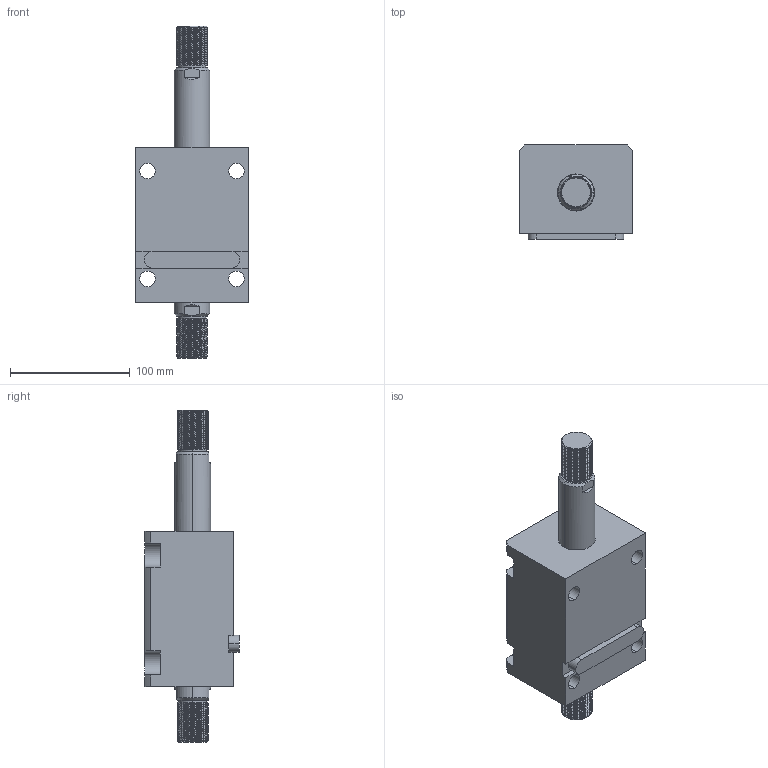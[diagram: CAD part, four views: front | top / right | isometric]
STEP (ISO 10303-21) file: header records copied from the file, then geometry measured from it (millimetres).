
FILE_DESCRIPTION (( 'STEP AP203' ), '1' );
FILE_NAME ('CHTB-LW50-55W.STEP', '2018-05-18T08:10:25', ( '' ), ( '' ), 'SwSTEP 2.0', 'SolidWorks 2015', '' );
FILE_SCHEMA (( 'CONFIG_CONTROL_DESIGN' ));
Length unit declared in the file: millimetre
Products named in the file (4): 掛极LW50-55W; CHTB-LW50-55W; 活塞杆LW50-55W; CHTM-SDMA50QG
Assembly tree (3 placements, depth 2):
  CHTB-LW50-55W
    掛极LW50-55W
    活塞杆LW50-55W
    CHTM-SDMA50QG
Bounding box: 94 x 79 x 277 mm (x, y, z)
Volume: 868621.4 mm3; surface area: 137307 mm2
Topology: 3 solids, 3 shells, 310 faces, 854 edges, 568 vertices
Faces by surface type: cylinder 186, plane 63, cone 27, bspline 18, torus 16
Entity records: 19510 total; most frequent: CARTESIAN_POINT 11940, ORIENTED_EDGE 1700, DIRECTION 1310, EDGE_CURVE 850, VERTEX_POINT 568, AXIS2_PLACEMENT_3D 503, EDGE_LOOP 348, FACE_OUTER_BOUND 310
